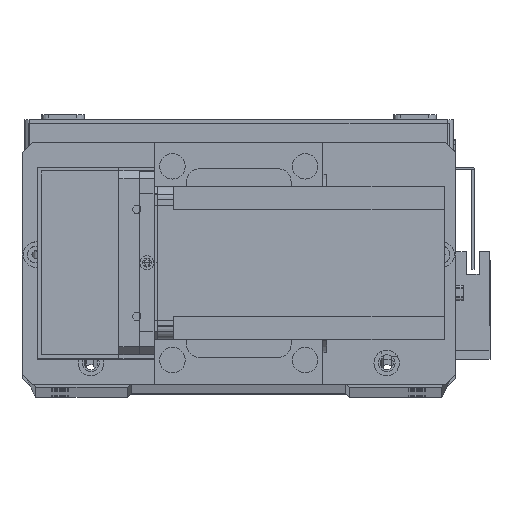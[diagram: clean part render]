
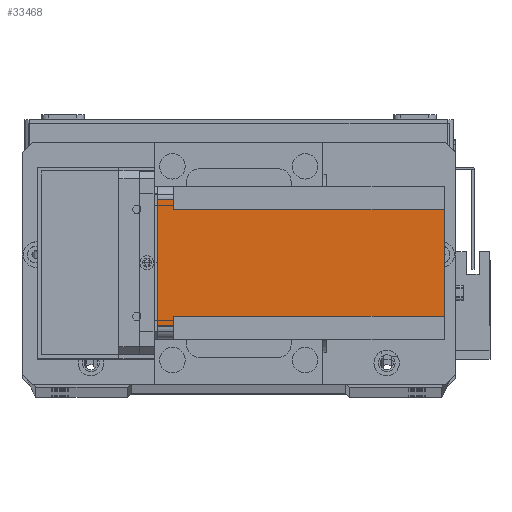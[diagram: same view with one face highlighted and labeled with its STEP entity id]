
A CAD part, top view. The second image highlights one B-rep face of the part: STEP entity #33468.
In plain terms, the highlighted planar face has unit normal (0, 0, 1) as drawn and (-1, 0, 0) by its records, which use the part's own axes.
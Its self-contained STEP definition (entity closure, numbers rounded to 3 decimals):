
#169 = ORIENTED_EDGE ( 'NONE', *, *, #8947, .T. ) ;
#1257 = LINE ( 'NONE', #29025, #15045 ) ;
#2371 = VECTOR ( 'NONE', #10173, 1000. ) ;
#2381 = CARTESIAN_POINT ( 'NONE',  ( 0., 51., -112.5 ) ) ;
#2613 = LINE ( 'NONE', #12126, #14769 ) ;
#2899 = VERTEX_POINT ( 'NONE', #29830 ) ;
#3651 = DIRECTION ( 'NONE',  ( -1., 0., 0. ) ) ;
#4862 = VERTEX_POINT ( 'NONE', #32382 ) ;
#5686 = DIRECTION ( 'NONE',  ( 0., -1., 0. ) ) ;
#5806 = VECTOR ( 'NONE', #28167, 1000. ) ;
#7237 = FACE_OUTER_BOUND ( 'NONE', #30059, .T. ) ;
#7777 = LINE ( 'NONE', #8602, #13830 ) ;
#7833 = LINE ( 'NONE', #28978, #14714 ) ;
#8226 = VECTOR ( 'NONE', #19826, 1000. ) ;
#8317 = DIRECTION ( 'NONE',  ( 0., 1., 0. ) ) ;
#8602 = CARTESIAN_POINT ( 'NONE',  ( 0., 5., -112.5 ) ) ;
#8947 = EDGE_CURVE ( 'NONE', #18592, #14419, #7777, .T. ) ;
#10173 = DIRECTION ( 'NONE',  ( 0., 1., 0. ) ) ;
#11560 = ORIENTED_EDGE ( 'NONE', *, *, #23719, .F. ) ;
#12120 = ORIENTED_EDGE ( 'NONE', *, *, #31209, .T. ) ;
#12126 = CARTESIAN_POINT ( 'NONE',  ( 0., 9., -112.5 ) ) ;
#12629 = CARTESIAN_POINT ( 'NONE',  ( 0., 0., -112.5 ) ) ;
#13439 = CARTESIAN_POINT ( 'NONE',  ( 0., 51., -112.5 ) ) ;
#13830 = VECTOR ( 'NONE', #26705, 1000. ) ;
#13936 = PLANE ( 'NONE',  #16345 ) ;
#13949 = CARTESIAN_POINT ( 'NONE',  ( 0., 5., 0. ) ) ;
#14415 = VECTOR ( 'NONE', #23141, 1000. ) ;
#14419 = VERTEX_POINT ( 'NONE', #13949 ) ;
#14714 = VECTOR ( 'NONE', #5686, 1000. ) ;
#14769 = VECTOR ( 'NONE', #30265, 1000. ) ;
#15045 = VECTOR ( 'NONE', #8317, 1000. ) ;
#16345 = AXIS2_PLACEMENT_3D ( 'NONE', #19043, #3651, #21755 ) ;
#17185 = CARTESIAN_POINT ( 'NONE',  ( 0., 55., -112.5 ) ) ;
#17937 = LINE ( 'NONE', #12629, #5806 ) ;
#18592 = VERTEX_POINT ( 'NONE', #21711 ) ;
#18983 = VERTEX_POINT ( 'NONE', #22823 ) ;
#19043 = CARTESIAN_POINT ( 'NONE',  ( 0., 0., -112.5 ) ) ;
#19826 = DIRECTION ( 'NONE',  ( 0., 0., -1. ) ) ;
#20475 = ORIENTED_EDGE ( 'NONE', *, *, #30885, .F. ) ;
#21288 = EDGE_CURVE ( 'NONE', #24718, #22240, #30633, .T. ) ;
#21654 = ORIENTED_EDGE ( 'NONE', *, *, #31049, .T. ) ;
#21711 = CARTESIAN_POINT ( 'NONE',  ( 0., 5., -6.5 ) ) ;
#21755 = DIRECTION ( 'NONE',  ( 0., -1., 0. ) ) ;
#22002 = LINE ( 'NONE', #17185, #8226 ) ;
#22240 = VERTEX_POINT ( 'NONE', #29502 ) ;
#22823 = CARTESIAN_POINT ( 'NONE',  ( 0., 9., -112.5 ) ) ;
#23141 = DIRECTION ( 'NONE',  ( 0., 0., 1. ) ) ;
#23719 = EDGE_CURVE ( 'NONE', #22240, #25101, #29920, .T. ) ;
#24718 = VERTEX_POINT ( 'NONE', #13439 ) ;
#25101 = VERTEX_POINT ( 'NONE', #27896 ) ;
#25614 = CARTESIAN_POINT ( 'NONE',  ( 0., 60., -6.5 ) ) ;
#25931 = ORIENTED_EDGE ( 'NONE', *, *, #29911, .F. ) ;
#26558 = ORIENTED_EDGE ( 'NONE', *, *, #21288, .F. ) ;
#26705 = DIRECTION ( 'NONE',  ( 0., 0., 1. ) ) ;
#27896 = CARTESIAN_POINT ( 'NONE',  ( 0., 55., -6.5 ) ) ;
#28167 = DIRECTION ( 'NONE',  ( 0., -1., 0. ) ) ;
#28978 = CARTESIAN_POINT ( 'NONE',  ( 0., 0., 0. ) ) ;
#29025 = CARTESIAN_POINT ( 'NONE',  ( 0., 0., -6.5 ) ) ;
#29502 = CARTESIAN_POINT ( 'NONE',  ( 0., 51., -6.5 ) ) ;
#29830 = CARTESIAN_POINT ( 'NONE',  ( 0., 55., 0. ) ) ;
#29911 = EDGE_CURVE ( 'NONE', #4862, #18983, #2613, .T. ) ;
#29920 = LINE ( 'NONE', #25614, #2371 ) ;
#30059 = EDGE_LOOP ( 'NONE', ( #30211, #169, #20475, #21654, #11560, #26558, #12120, #25931 ) ) ;
#30211 = ORIENTED_EDGE ( 'NONE', *, *, #31985, .F. ) ;
#30265 = DIRECTION ( 'NONE',  ( 0., 0., -1. ) ) ;
#30633 = LINE ( 'NONE', #2381, #14415 ) ;
#30885 = EDGE_CURVE ( 'NONE', #2899, #14419, #7833, .T. ) ;
#31049 = EDGE_CURVE ( 'NONE', #2899, #25101, #22002, .T. ) ;
#31209 = EDGE_CURVE ( 'NONE', #24718, #18983, #17937, .T. ) ;
#31985 = EDGE_CURVE ( 'NONE', #18592, #4862, #1257, .T. ) ;
#32382 = CARTESIAN_POINT ( 'NONE',  ( 0., 9., -6.5 ) ) ;
#33468 = ADVANCED_FACE ( 'NONE', ( #7237 ), #13936, .T. ) ;
